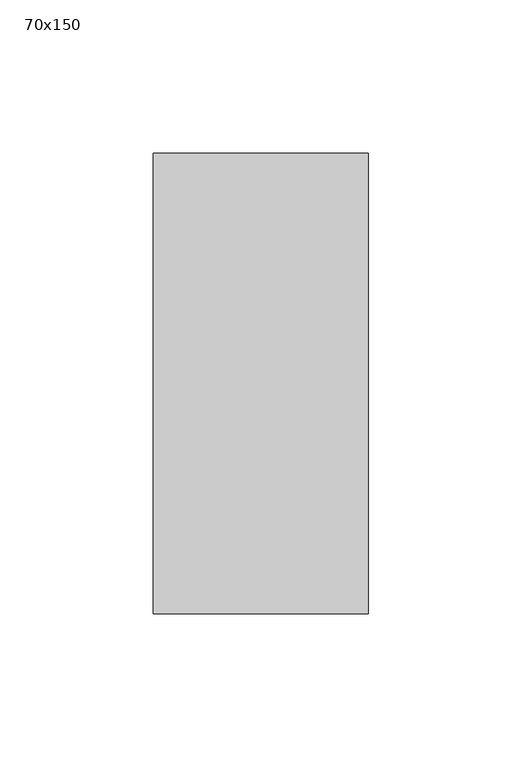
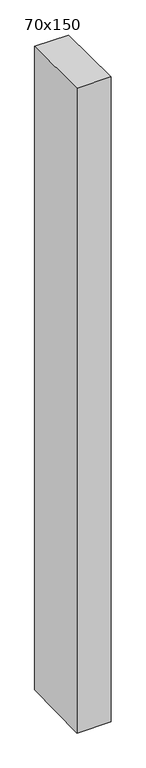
"""IFC4 building model written with IfcOpenShell, lengths in millimetres: member geometry, 長方形のマリオン : 70x150."""

import ifcopenshell
import ifcopenshell.guid

model = None  # the IFC model being written
_history = None  # IfcOwnerHistory: only IFC2X3 demands one
_inside = {}  # id of a spatial element -> (the spatial element, [elements in it])
_under = {}  # id of a project, library or spatial element -> (it, [spatial elements below it])
_declared = {}  # id of a project -> (the project, [libraries it declares])
_typed = {}  # id of a type object -> (the type object, [elements of that type])
_made_of = {}  # id of a material, layer set ... -> (it, [elements and type objects made of it])


def new_model(schema):
    """Start an empty IFC model of exactly this schema.

    Asked for "IFC4X3", IfcOpenShell would pick the latest addendum, in which some entities
    have other attributes; the version numbers below select the first issue.
    IFC2X3 requires an IfcOwnerHistory on every rooted entity: one is made here for all.
    """
    global model, _history
    if schema == "IFC4X3":
        model = ifcopenshell.file(schema_version=(4, 3, 0, 0))
    else:
        model = ifcopenshell.file(schema=schema)
    _inside.clear()
    _under.clear()
    _declared.clear()
    _typed.clear()
    _made_of.clear()
    _history = None
    if model.schema == "IFC2X3":
        org = make("IfcOrganization", Name="unknown")
        user = make(
            "IfcPersonAndOrganization",
            ThePerson=make("IfcPerson", FamilyName="unknown"),
            TheOrganization=org,
        )
        app = make(
            "IfcApplication",
            ApplicationDeveloper=org,
            Version="unknown",
            ApplicationFullName="unknown",
            ApplicationIdentifier="unknown",
        )
        _history = make(
            "IfcOwnerHistory",
            OwningUser=user,
            OwningApplication=app,
            ChangeAction="ADDED",
            CreationDate=0,
        )
    return model


def make(cls, **values):
    """One entity of the class cls with the attributes given. An attribute that is None is left unset."""
    return model.create_entity(
        cls, **{name: value for name, value in values.items() if value is not None}
    )


def rooted(cls, **values):
    """An entity with a GlobalId (a new one), such as an element, a storey or a relation."""
    return make(cls, GlobalId=ifcopenshell.guid.new(), OwnerHistory=_history, **values)


def si_unit(unit_type, name, prefix=None):
    """IfcSIUnit, for example si_unit("LENGTHUNIT", "METRE", prefix="MILLI")."""
    return make("IfcSIUnit", UnitType=unit_type, Prefix=prefix, Name=name)


def assignment(units):
    """IfcUnitAssignment: the units of a project."""
    return None if units is None else make("IfcUnitAssignment", Units=units)


def point(xyz):
    """IfcCartesianPoint."""
    return None if xyz is None else make("IfcCartesianPoint", Coordinates=xyz)


def direction(xyz):
    """IfcDirection."""
    return None if xyz is None else make("IfcDirection", DirectionRatios=xyz)


def frame(location, z_axis=None, x_axis=None):
    """IfcAxis2Placement3D, a coordinate frame: its origin and axes. An axis left out is left unset."""
    return make(
        "IfcAxis2Placement3D",
        Location=point(location),
        Axis=direction(z_axis),
        RefDirection=direction(x_axis),
    )


def origin():
    """The frame at (0, 0, 0) with its axes left unset."""
    return frame((0.0, 0.0, 0.0))


def place(relative_to, where):
    """IfcLocalPlacement: puts the frame where relative to a parent placement (None: the world)."""
    return make(
        "IfcLocalPlacement", PlacementRelTo=relative_to, RelativePlacement=where
    )


def context(
    kind, dimensions, precision=None, world=None, true_north=None, identifier=None
):
    """IfcGeometricRepresentationContext, for example the 3D "Model" context."""
    return make(
        "IfcGeometricRepresentationContext",
        ContextIdentifier=identifier,
        ContextType=kind,
        CoordinateSpaceDimension=dimensions,
        Precision=precision,
        WorldCoordinateSystem=world,
        TrueNorth=true_north,
    )


def project(units=None, contexts=None):
    """IfcProject with its units and contexts."""
    return rooted(
        "IfcProject",
        Name="project",
        RepresentationContexts=contexts,
        UnitsInContext=assignment(units),
    )


def spatial(cls, under=None, at=None, **own):
    """A site, building, storey or space (cls), placed at a placement, below another one or the project."""
    s = rooted(cls, ObjectPlacement=at, **own)
    if under is not None:
        _under.setdefault(under.id(), (under, []))[1].append(s)
    return s


def polyline(points):
    """IfcPolyline through the points."""
    return make("IfcPolyline", Points=[point(p) for p in points])


def outline(outer, holes=None, kind="AREA"):
    """IfcArbitraryClosedProfileDef: a profile drawn as a closed curve; with holes, ...WithVoids."""
    if holes is None:
        return make("IfcArbitraryClosedProfileDef", ProfileType=kind, OuterCurve=outer)
    return make(
        "IfcArbitraryProfileDefWithVoids",
        ProfileType=kind,
        OuterCurve=outer,
        InnerCurves=holes,
    )


def extrude(swept, where, along, depth):
    """IfcExtrudedAreaSolid: the profile swept, set in the frame where, extruded along a direction by depth."""
    return make(
        "IfcExtrudedAreaSolid",
        SweptArea=swept,
        Position=where,
        ExtrudedDirection=direction(along),
        Depth=depth,
    )


def shape(context_of_items, identifier, shape_type, items):
    """IfcShapeRepresentation: the items that make up one representation, for example the "Body"."""
    return make(
        "IfcShapeRepresentation",
        ContextOfItems=context_of_items,
        RepresentationIdentifier=identifier,
        RepresentationType=shape_type,
        Items=items,
    )


def source(mapping_origin, context_of_items, identifier, shape_type, items):
    """IfcRepresentationMap: a shape defined once, which mapped items show again and again."""
    return make(
        "IfcRepresentationMap",
        MappingOrigin=mapping_origin,
        MappedRepresentation=shape(context_of_items, identifier, shape_type, items),
    )


def transform(
    local_origin,
    x_axis=None,
    y_axis=None,
    z_axis=None,
    scale=None,
    scale2=None,
    scale3=None,
    uniform=True,
):
    """IfcCartesianTransformationOperator3D, or its non-uniform kind. x_axis, y_axis, z_axis: its Axis1, 2, 3."""
    if uniform:
        return make(
            "IfcCartesianTransformationOperator3D",
            Axis1=direction(x_axis),
            Axis2=direction(y_axis),
            LocalOrigin=point(local_origin),
            Scale=scale,
            Axis3=direction(z_axis),
        )
    return make(
        "IfcCartesianTransformationOperator3DnonUniform",
        Axis1=direction(x_axis),
        Axis2=direction(y_axis),
        LocalOrigin=point(local_origin),
        Scale=scale,
        Axis3=direction(z_axis),
        Scale2=scale2,
        Scale3=scale3,
    )


def mapped(mapping_source, mapping_target):
    """IfcMappedItem: shows the shape of a source again, moved by a transform."""
    return make(
        "IfcMappedItem", MappingSource=mapping_source, MappingTarget=mapping_target
    )


def made_of(thing, what):
    """Note that an element or type object is made of a material, layer set ...; save() writes the relation."""
    if what is not None:
        _made_of.setdefault(what.id(), (what, []))[1].append(thing)
    return thing


def element(
    cls,
    number,
    at=None,
    inside=None,
    cuts=None,
    type_object=None,
    material=None,
    context=None,
    identifier="Body",
    shape_type=None,
    held_by="IfcProductDefinitionShape",
    body=None,
    shapes=None,
    **own,
):
    """One element of the class cls, such as IfcWall. Its Tag is "e" and its number.

    at: its placement. inside: the storey or other place that contains it. cuts: it is an
    opening in that element (IfcRelVoidsElement). A single representation is given by context,
    identifier, shape_type and body (its items); several are given by shapes. held_by: the class
    of the entity that holds the representations. save() writes the other relations.
    """
    e = rooted(cls, Tag="e%d" % number, ObjectPlacement=at, **own)
    if body is not None:
        shapes = [shape(context, identifier, shape_type, body)]
    if shapes is not None:
        e.Representation = make(held_by, Representations=shapes)
    if inside is not None:
        _inside.setdefault(inside.id(), (inside, []))[1].append(e)
    if cuts is not None:
        rooted(
            "IfcRelVoidsElement", RelatingBuildingElement=cuts, RelatedOpeningElement=e
        )
    if type_object is not None:
        _typed.setdefault(type_object.id(), (type_object, []))[1].append(e)
    return made_of(e, material)


def aggregate(whole, parts):
    """IfcRelAggregates: a whole, such as a stair, and the parts it consists of."""
    return rooted("IfcRelAggregates", RelatingObject=whole, RelatedObjects=parts)


def save(model, path):
    """Write the relations noted so far, then the file.

    IfcRelAggregates (storeys below a building ...), IfcRelContainedInSpatialStructure (elements
    in a storey), IfcRelDefinesByType, IfcRelAssociatesMaterial and IfcRelDeclares: one each for
    every whole, place, type object, material and project.
    """
    for whole, parts in _under.values():
        aggregate(whole, parts)
    for where, things in _inside.values():
        rooted(
            "IfcRelContainedInSpatialStructure",
            RelatedElements=things,
            RelatingStructure=where,
        )
    for kind, things in _typed.values():
        rooted("IfcRelDefinesByType", RelatedObjects=things, RelatingType=kind)
    for what, things in _made_of.values():
        rooted("IfcRelAssociatesMaterial", RelatedObjects=things, RelatingMaterial=what)
    for by, libraries in _declared.values():
        rooted("IfcRelDeclares", RelatingContext=by, RelatedDefinitions=libraries)
    model.write(path)


def member_70x150_3cf8c52d(model_context):
    return source(origin(), model_context, "Body", "SweptSolid", [
        extrude(outline(polyline([(-75.0, 0.3082573), (75.0, -0.3082573), (75.0, -1398.7965248), (-75.0, -1401.5521364), (-75.0, 0.3082573)])), frame((-35.0, 0.0, 0.0), z_axis=(1.0, 0.0, 0.0), x_axis=(0.0, 1.0, 0.0)), (0.0, 0.0, 1.0), 70.0),
    ])


if __name__ == "__main__":
    model = new_model("IFC4")
    model_context = context("Model", 3, world=origin())
    ifc_project = project(units=[si_unit("LENGTHUNIT", "METRE", prefix="MILLI")], contexts=[model_context])
    site = spatial("IfcSite", under=ifc_project)
    building = spatial("IfcBuilding", under=site)
    placement = place(None, origin())
    member_70x150_shape = member_70x150_3cf8c52d(model_context)
    element("IfcMember", 1, ObjectType="長方形のマリオン : 70x150", at=placement, inside=building, context=model_context, shape_type="MappedRepresentation", body=[
        mapped(member_70x150_shape, transform((0.0, 0.0, 0.0), x_axis=(1.0, 0.0, 0.0), y_axis=(0.0, 1.0, 0.0), z_axis=(0.0, 0.0, 1.0))),
    ])
    save(model, "model.ifc")
